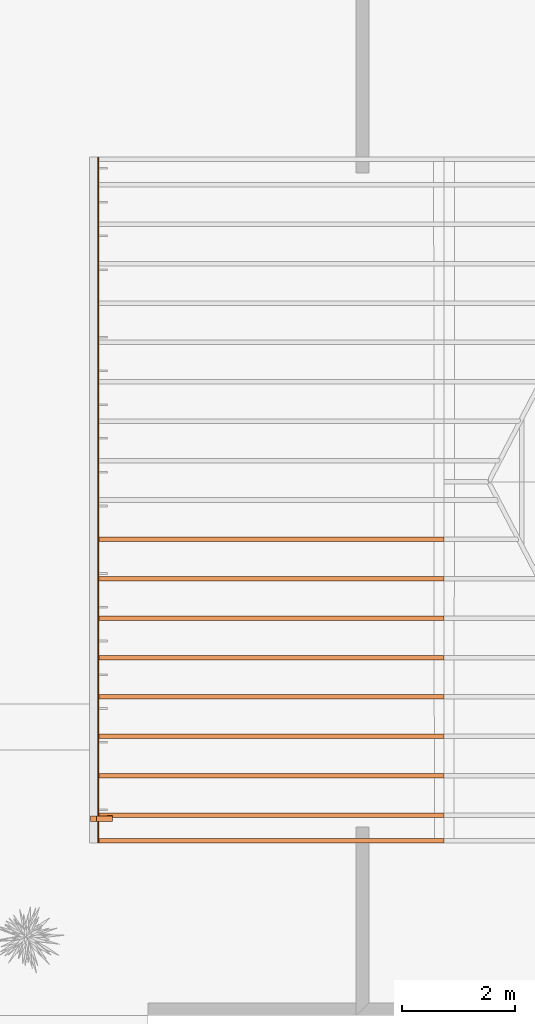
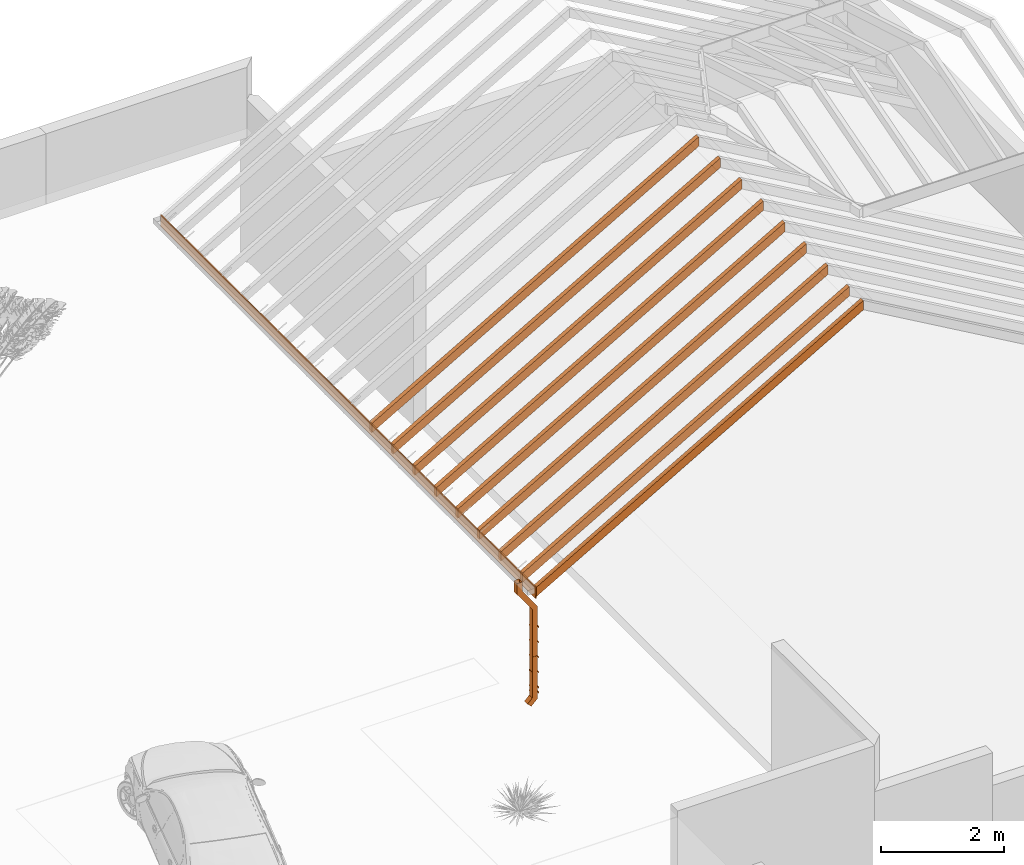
# One storey, part 2 of 7: 21 proxies.
"""IFC2X3 building model written with IfcOpenShell, lengths in metres."""

import ifcopenshell
import ifcopenshell.guid

model = None  # the IFC model being written
_history = None  # IfcOwnerHistory: only IFC2X3 demands one
_inside = {}  # id of a spatial element -> (the spatial element, [elements in it])
_under = {}  # id of a project, library or spatial element -> (it, [spatial elements below it])
_declared = {}  # id of a project -> (the project, [libraries it declares])
_typed = {}  # id of a type object -> (the type object, [elements of that type])
_made_of = {}  # id of a material, layer set ... -> (it, [elements and type objects made of it])


def new_model(schema):
    """Start an empty IFC model of exactly this schema.

    Asked for "IFC4X3", IfcOpenShell would pick the latest addendum, in which some entities
    have other attributes; the version numbers below select the first issue.
    IFC2X3 requires an IfcOwnerHistory on every rooted entity: one is made here for all.
    """
    global model, _history
    if schema == "IFC4X3":
        model = ifcopenshell.file(schema_version=(4, 3, 0, 0))
    else:
        model = ifcopenshell.file(schema=schema)
    _inside.clear()
    _under.clear()
    _declared.clear()
    _typed.clear()
    _made_of.clear()
    _history = None
    if model.schema == "IFC2X3":
        org = make("IfcOrganization", Name="unknown")
        user = make(
            "IfcPersonAndOrganization",
            ThePerson=make("IfcPerson", FamilyName="unknown"),
            TheOrganization=org,
        )
        app = make(
            "IfcApplication",
            ApplicationDeveloper=org,
            Version="unknown",
            ApplicationFullName="unknown",
            ApplicationIdentifier="unknown",
        )
        _history = make(
            "IfcOwnerHistory",
            OwningUser=user,
            OwningApplication=app,
            ChangeAction="ADDED",
            CreationDate=0,
        )
    return model


def make(cls, **values):
    """One entity of the class cls with the attributes given. An attribute that is None is left unset."""
    return model.create_entity(
        cls, **{name: value for name, value in values.items() if value is not None}
    )


def entity(cls, *values):
    """Any entity or typed value of the class cls, its attributes in the order of the schema. None: left unset."""
    e = model.create_entity(cls)
    for i, value in enumerate(values):
        if value is not None:
            e[i] = value
    return e


def rooted(cls, **values):
    """An entity with a GlobalId (a new one), such as an element, a storey or a relation."""
    return make(cls, GlobalId=ifcopenshell.guid.new(), OwnerHistory=_history, **values)


def si_unit(unit_type, name, prefix=None):
    """IfcSIUnit, for example si_unit("LENGTHUNIT", "METRE", prefix="MILLI")."""
    return make("IfcSIUnit", UnitType=unit_type, Prefix=prefix, Name=name)


def converted_unit(unit_type, name, factor, base, dimensions=None, offset=None):
    """IfcConversionBasedUnit, such as the inch: factor (a typed value) times the base unit."""
    return make(
        "IfcConversionBasedUnit"
        if offset is None
        else "IfcConversionBasedUnitWithOffset",
        ConversionOffset=offset,
        Dimensions=None
        if dimensions is None
        else entity("IfcDimensionalExponents", *dimensions),
        UnitType=unit_type,
        Name=name,
        ConversionFactor=make(
            "IfcMeasureWithUnit", ValueComponent=factor, UnitComponent=base
        ),
    )


def derived_unit(unit_type, elements):
    """IfcDerivedUnit: a product of units, each with its exponent."""
    return make(
        "IfcDerivedUnit",
        Elements=[
            make("IfcDerivedUnitElement", Unit=unit, Exponent=power)
            for unit, power in elements
        ],
        UnitType=unit_type,
    )


def money_unit(currency):
    """IfcMonetaryUnit."""
    return make("IfcMonetaryUnit", Currency=currency)


def assignment(units):
    """IfcUnitAssignment: the units of a project."""
    return None if units is None else make("IfcUnitAssignment", Units=units)


def point(xyz):
    """IfcCartesianPoint."""
    return None if xyz is None else make("IfcCartesianPoint", Coordinates=xyz)


def direction(xyz):
    """IfcDirection."""
    return None if xyz is None else make("IfcDirection", DirectionRatios=xyz)


def frame(location, z_axis=None, x_axis=None):
    """IfcAxis2Placement3D, a coordinate frame: its origin and axes. An axis left out is left unset."""
    return make(
        "IfcAxis2Placement3D",
        Location=point(location),
        Axis=direction(z_axis),
        RefDirection=direction(x_axis),
    )


def origin_with_axes():
    """The frame at (0, 0, 0) with the z axis (0, 0, 1) and the x axis (1, 0, 0) written out."""
    return frame((0.0, 0.0, 0.0), z_axis=(0.0, 0.0, 1.0), x_axis=(1.0, 0.0, 0.0))


def place(relative_to, where):
    """IfcLocalPlacement: puts the frame where relative to a parent placement (None: the world)."""
    return make(
        "IfcLocalPlacement", PlacementRelTo=relative_to, RelativePlacement=where
    )


def context(
    kind, dimensions, precision=None, world=None, true_north=None, identifier=None
):
    """IfcGeometricRepresentationContext, for example the 3D "Model" context."""
    return make(
        "IfcGeometricRepresentationContext",
        ContextIdentifier=identifier,
        ContextType=kind,
        CoordinateSpaceDimension=dimensions,
        Precision=precision,
        WorldCoordinateSystem=world,
        TrueNorth=true_north,
    )


def subcontext(parent, identifier, kind, view, scale=None):
    """IfcGeometricRepresentationSubContext, for example "Body" below "Model"."""
    return make(
        "IfcGeometricRepresentationSubContext",
        ContextIdentifier=identifier,
        ContextType=kind,
        ParentContext=parent,
        TargetScale=scale,
        TargetView=view,
    )


def project(units=None, contexts=None):
    """IfcProject with its units and contexts."""
    return rooted(
        "IfcProject",
        Name="project",
        RepresentationContexts=contexts,
        UnitsInContext=assignment(units),
    )


def spatial(cls, under=None, at=None, **own):
    """A site, building, storey or space (cls), placed at a placement, below another one or the project."""
    s = rooted(cls, ObjectPlacement=at, **own)
    if under is not None:
        _under.setdefault(under.id(), (under, []))[1].append(s)
    return s


def faces_of(points, faces, orient=None, outer=None):
    """IfcFace entities. A face is a list of loops; a loop is a list of indices into points, from 0.

    orient and outer hold one flag for each loop. By default every Orientation is true, the
    first loop of a face is its IfcFaceOuterBound and the others are IfcFaceBound.
    """
    made = []
    for i, loops in enumerate(faces):
        bounds = []
        for j, loop in enumerate(loops):
            is_outer = j == 0 if outer is None else outer[i][j]
            bounds.append(
                make(
                    "IfcFaceOuterBound" if is_outer else "IfcFaceBound",
                    Bound=make("IfcPolyLoop", Polygon=[points[k] for k in loop]),
                    Orientation=True if orient is None else orient[i][j],
                )
            )
        made.append(make("IfcFace", Bounds=bounds))
    return made


def open_shell(faces, orient=None, outer=None):
    """The faces of one IfcOpenShell. surface_model builds it on its shared points."""
    return ("IfcOpenShell", faces, orient, outer)


def faceted_brep(points, faces, orient=None, outer=None, voids=None):
    """IfcFacetedBrep: a solid bounded by flat faces; with voids (closed shells), ...WithVoids."""
    shared = [point(p) for p in points]
    hull = make("IfcClosedShell", CfsFaces=faces_of(shared, faces, orient, outer))
    if voids is None:
        return make("IfcFacetedBrep", Outer=hull)
    return make(
        "IfcFacetedBrepWithVoids",
        Outer=hull,
        Voids=[
            make(cls, CfsFaces=faces_of(shared, fs, o, b)) for cls, fs, o, b in voids
        ],
    )


def surface_model(cls, points, shells):
    """IfcFaceBasedSurfaceModel or IfcShellBasedSurfaceModel (cls): surfaces that need not close."""
    shared = [point(p) for p in points]
    made = [make(c, CfsFaces=faces_of(shared, fs, o, b)) for c, fs, o, b in shells]
    if cls == "IfcFaceBasedSurfaceModel":
        return make(cls, FbsmFaces=made)
    return make(cls, SbsmBoundary=made)


def shape(context_of_items, identifier, shape_type, items):
    """IfcShapeRepresentation: the items that make up one representation, for example the "Body"."""
    return make(
        "IfcShapeRepresentation",
        ContextOfItems=context_of_items,
        RepresentationIdentifier=identifier,
        RepresentationType=shape_type,
        Items=items,
    )


def source(mapping_origin, context_of_items, identifier, shape_type, items):
    """IfcRepresentationMap: a shape defined once, which mapped items show again and again."""
    return make(
        "IfcRepresentationMap",
        MappingOrigin=mapping_origin,
        MappedRepresentation=shape(context_of_items, identifier, shape_type, items),
    )


def transform(
    local_origin,
    x_axis=None,
    y_axis=None,
    z_axis=None,
    scale=None,
    scale2=None,
    scale3=None,
    uniform=True,
):
    """IfcCartesianTransformationOperator3D, or its non-uniform kind. x_axis, y_axis, z_axis: its Axis1, 2, 3."""
    if uniform:
        return make(
            "IfcCartesianTransformationOperator3D",
            Axis1=direction(x_axis),
            Axis2=direction(y_axis),
            LocalOrigin=point(local_origin),
            Scale=scale,
            Axis3=direction(z_axis),
        )
    return make(
        "IfcCartesianTransformationOperator3DnonUniform",
        Axis1=direction(x_axis),
        Axis2=direction(y_axis),
        LocalOrigin=point(local_origin),
        Scale=scale,
        Axis3=direction(z_axis),
        Scale2=scale2,
        Scale3=scale3,
    )


def mapped(mapping_source, mapping_target):
    """IfcMappedItem: shows the shape of a source again, moved by a transform."""
    return make(
        "IfcMappedItem", MappingSource=mapping_source, MappingTarget=mapping_target
    )


def made_of(thing, what):
    """Note that an element or type object is made of a material, layer set ...; save() writes the relation."""
    if what is not None:
        _made_of.setdefault(what.id(), (what, []))[1].append(thing)
    return thing


def type_object(cls, material=None, **own):
    """A type object (cls), such as IfcWallType, which elements share."""
    return made_of(rooted(cls, **own), material)


def element(
    cls,
    number,
    at=None,
    inside=None,
    cuts=None,
    type_object=None,
    material=None,
    context=None,
    identifier="Body",
    shape_type=None,
    held_by="IfcProductDefinitionShape",
    body=None,
    shapes=None,
    **own,
):
    """One element of the class cls, such as IfcWall. Its Tag is "e" and its number.

    at: its placement. inside: the storey or other place that contains it. cuts: it is an
    opening in that element (IfcRelVoidsElement). A single representation is given by context,
    identifier, shape_type and body (its items); several are given by shapes. held_by: the class
    of the entity that holds the representations. save() writes the other relations.
    """
    e = rooted(cls, Tag="e%d" % number, ObjectPlacement=at, **own)
    if body is not None:
        shapes = [shape(context, identifier, shape_type, body)]
    if shapes is not None:
        e.Representation = make(held_by, Representations=shapes)
    if inside is not None:
        _inside.setdefault(inside.id(), (inside, []))[1].append(e)
    if cuts is not None:
        rooted(
            "IfcRelVoidsElement", RelatingBuildingElement=cuts, RelatedOpeningElement=e
        )
    if type_object is not None:
        _typed.setdefault(type_object.id(), (type_object, []))[1].append(e)
    return made_of(e, material)


def aggregate(whole, parts):
    """IfcRelAggregates: a whole, such as a stair, and the parts it consists of."""
    return rooted("IfcRelAggregates", RelatingObject=whole, RelatedObjects=parts)


def save(model, path):
    """Write the relations noted so far, then the file.

    IfcRelAggregates (storeys below a building ...), IfcRelContainedInSpatialStructure (elements
    in a storey), IfcRelDefinesByType, IfcRelAssociatesMaterial and IfcRelDeclares: one each for
    every whole, place, type object, material and project.
    """
    for whole, parts in _under.values():
        aggregate(whole, parts)
    for where, things in _inside.values():
        rooted(
            "IfcRelContainedInSpatialStructure",
            RelatedElements=things,
            RelatingStructure=where,
        )
    for kind, things in _typed.values():
        rooted("IfcRelDefinesByType", RelatedObjects=things, RelatingType=kind)
    for what, things in _made_of.values():
        rooted("IfcRelAssociatesMaterial", RelatedObjects=things, RelatingMaterial=what)
    for by, libraries in _declared.values():
        rooted("IfcRelDeclares", RelatingContext=by, RelatedDefinitions=libraries)
    model.write(path)


model = new_model("IFC2X3")

# Units and contexts
model_context = context("Model", 3, precision=1e-05, world=origin_with_axes(), true_north=direction((0.0, 1.0)))
body_context = subcontext(model_context, "Body", "Model", "MODEL_VIEW")
ifc_project = project(units=[si_unit("LENGTHUNIT", "METRE"), si_unit("AREAUNIT", "SQUARE_METRE"), si_unit("VOLUMEUNIT", "CUBIC_METRE"), converted_unit("PLANEANGLEUNIT", "DEGREE", entity("IfcPlaneAngleMeasure", 0.0174532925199), si_unit("PLANEANGLEUNIT", "RADIAN"), dimensions=[0, 0, 0, 0, 0, 0, 0]), si_unit("SOLIDANGLEUNIT", "STERADIAN"), money_unit("CHF"), converted_unit("TIMEUNIT", "Year", entity("IfcTimeMeasure", 31556926.0), si_unit("TIMEUNIT", "SECOND"), dimensions=[0, 0, 1, 0, 0, 0, 0]), si_unit("MASSUNIT", "GRAM", prefix="KILO"), si_unit("THERMODYNAMICTEMPERATUREUNIT", "DEGREE_CELSIUS"), si_unit("LUMINOUSINTENSITYUNIT", "LUMEN"), si_unit("ENERGYUNIT", "JOULE", prefix="MEGA"), derived_unit("THERMALCONDUCTANCEUNIT", [(si_unit("POWERUNIT", "WATT"), 1), (si_unit("LENGTHUNIT", "METRE"), -1), (si_unit("THERMODYNAMICTEMPERATUREUNIT", "KELVIN"), -1)]), derived_unit("SPECIFICHEATCAPACITYUNIT", [(si_unit("ENERGYUNIT", "JOULE"), 1), (si_unit("MASSUNIT", "GRAM", prefix="KILO"), -1), (si_unit("THERMODYNAMICTEMPERATUREUNIT", "KELVIN"), -1)]), derived_unit("MASSDENSITYUNIT", [(si_unit("MASSUNIT", "GRAM", prefix="KILO"), 1), (si_unit("VOLUMEUNIT", "CUBIC_METRE"), -1)])], contexts=[model_context])

# Site, building, storey
site_placement = place(None, origin_with_axes())
site = spatial("IfcSite", under=ifc_project, at=site_placement, Name="Site", CompositionType="ELEMENT")
building_placement = place(site_placement, origin_with_axes())
building = spatial("IfcBuilding", under=site, at=building_placement, Name="Bâtiment", CompositionType="ELEMENT")
storey_placement = place(building_placement, frame((0.0, 0.0, 9.0), z_axis=(0.0, 0.0, 1.0), x_axis=(1.0, 0.0, 0.0)))
storey = spatial("IfcBuildingStorey", under=building, at=storey_placement, Name="TOITURE", CompositionType="ELEMENT", Elevation=9.0)

# Proxies
building_element_proxy_type_1 = type_object("IfcBuildingElementProxyType", Name="Tuyau descente complexe 24", PredefinedType="NOTDEFINED")
shared_shape_1 = source(origin_with_axes(), body_context, "Body", "SurfaceModel", [
    surface_model("IfcShellBasedSurfaceModel", [(-0.05, 0.05, 0.241421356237), (-0.05, 0.05, 0.120710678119), (-0.05, -0.0707106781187, 0.0), (-0.05, -0.141421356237, 0.0707106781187), (-0.05, -0.05, 0.162132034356), (-0.05, -0.05, 0.241421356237), (0.05, 0.05, 0.241421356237), (0.05, 0.05, 0.120710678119), (0.05, -0.0707106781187, 0.0), (0.05, -0.141421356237, 0.0707106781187), (0.05, -0.05, 0.162132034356), (0.05, -0.05, 0.241421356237)], [open_shell([[[0, 1, 2, 3, 4, 5]], [[6, 7, 1, 0]], [[7, 8, 2, 1]], [[4, 3, 9, 10]], [[5, 4, 10, 11]], [[11, 10, 9, 8, 7, 6]]])]),
    surface_model("IfcShellBasedSurfaceModel", [(0.05, -0.05, 1.73114252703), (0.05, -0.05, 0.241421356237), (0.05, 0.05, 0.241421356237), (0.05, 0.05, 1.73114252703), (-0.05, -0.05, 1.73114252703), (-0.05, -0.05, 0.241421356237), (-0.05, 0.05, 0.241421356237), (-0.05, 0.05, 1.73114252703)], [open_shell([[[0, 1, 2, 3]], [[4, 5, 1, 0]], [[3, 2, 6, 7]], [[7, 6, 5, 4]]])]),
    faceted_brep([(0.09, 0.0479, 0.341421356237), (0.09, 0.0479, 0.371421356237), (0.052, 0.0479, 0.371421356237), (0.052, 0.0479, 0.341421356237), (0.09, 0.0499, 0.341421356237), (0.09, 0.0499, 0.371421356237), (0.0502, 0.0499, 0.371421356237), (0.0502, -0.0503, 0.371421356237), (-0.0502, -0.0503, 0.371421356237), (-0.0502, 0.0499, 0.371421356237), (-0.09, 0.0499, 0.371421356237), (-0.09, 0.0479, 0.371421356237), (-0.052, 0.0479, 0.371421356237), (-0.052, -0.0521, 0.371421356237), (0.052, -0.0521, 0.371421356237), (0.052, -0.0521, 0.341421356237), (-0.052, -0.0521, 0.341421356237), (-0.052, 0.0479, 0.341421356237), (-0.09, 0.0479, 0.341421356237), (-0.09, 0.0499, 0.341421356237), (-0.0502, 0.0499, 0.341421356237), (-0.0502, -0.0503, 0.341421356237), (0.0502, -0.0503, 0.341421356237), (0.0502, 0.0499, 0.341421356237)], [[[0, 1, 2, 3]], [[4, 5, 1, 0]], [[1, 5, 6, 7, 8, 9, 10, 11, 12, 13, 14, 2]], [[3, 2, 14, 15]], [[0, 3, 15, 16, 17, 18, 19, 20, 21, 22, 23, 4]], [[23, 6, 5, 4]], [[22, 7, 6, 23]], [[21, 8, 7, 22]], [[20, 9, 8, 21]], [[19, 10, 9, 20]], [[18, 11, 10, 19]], [[17, 12, 11, 18]], [[16, 13, 12, 17]], [[15, 14, 13, 16]]]),
    faceted_brep([(0.09, 0.0479, 0.641421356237), (0.09, 0.0479, 0.671421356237), (0.052, 0.0479, 0.671421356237), (0.052, 0.0479, 0.641421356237), (0.09, 0.0499, 0.641421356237), (0.09, 0.0499, 0.671421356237), (0.0502, 0.0499, 0.671421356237), (0.0502, -0.0503, 0.671421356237), (-0.0502, -0.0503, 0.671421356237), (-0.0502, 0.0499, 0.671421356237), (-0.09, 0.0499, 0.671421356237), (-0.09, 0.0479, 0.671421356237), (-0.052, 0.0479, 0.671421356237), (-0.052, -0.0521, 0.671421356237), (0.052, -0.0521, 0.671421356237), (0.052, -0.0521, 0.641421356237), (-0.052, -0.0521, 0.641421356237), (-0.052, 0.0479, 0.641421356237), (-0.09, 0.0479, 0.641421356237), (-0.09, 0.0499, 0.641421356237), (-0.0502, 0.0499, 0.641421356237), (-0.0502, -0.0503, 0.641421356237), (0.0502, -0.0503, 0.641421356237), (0.0502, 0.0499, 0.641421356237)], [[[0, 1, 2, 3]], [[4, 5, 1, 0]], [[1, 5, 6, 7, 8, 9, 10, 11, 12, 13, 14, 2]], [[3, 2, 14, 15]], [[0, 3, 15, 16, 17, 18, 19, 20, 21, 22, 23, 4]], [[23, 6, 5, 4]], [[22, 7, 6, 23]], [[21, 8, 7, 22]], [[20, 9, 8, 21]], [[19, 10, 9, 20]], [[18, 11, 10, 19]], [[17, 12, 11, 18]], [[16, 13, 12, 17]], [[15, 14, 13, 16]]]),
    faceted_brep([(0.09, 0.0479, 0.941421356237), (0.09, 0.0479, 0.971421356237), (0.052, 0.0479, 0.971421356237), (0.052, 0.0479, 0.941421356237), (0.09, 0.0499, 0.941421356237), (0.09, 0.0499, 0.971421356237), (0.0502, 0.0499, 0.971421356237), (0.0502, -0.0503, 0.971421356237), (-0.0502, -0.0503, 0.971421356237), (-0.0502, 0.0499, 0.971421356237), (-0.09, 0.0499, 0.971421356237), (-0.09, 0.0479, 0.971421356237), (-0.052, 0.0479, 0.971421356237), (-0.052, -0.0521, 0.971421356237), (0.052, -0.0521, 0.971421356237), (0.052, -0.0521, 0.941421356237), (-0.052, -0.0521, 0.941421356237), (-0.052, 0.0479, 0.941421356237), (-0.09, 0.0479, 0.941421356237), (-0.09, 0.0499, 0.941421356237), (-0.0502, 0.0499, 0.941421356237), (-0.0502, -0.0503, 0.941421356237), (0.0502, -0.0503, 0.941421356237), (0.0502, 0.0499, 0.941421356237)], [[[0, 1, 2, 3]], [[4, 5, 1, 0]], [[1, 5, 6, 7, 8, 9, 10, 11, 12, 13, 14, 2]], [[3, 2, 14, 15]], [[0, 3, 15, 16, 17, 18, 19, 20, 21, 22, 23, 4]], [[23, 6, 5, 4]], [[22, 7, 6, 23]], [[21, 8, 7, 22]], [[20, 9, 8, 21]], [[19, 10, 9, 20]], [[18, 11, 10, 19]], [[17, 12, 11, 18]], [[16, 13, 12, 17]], [[15, 14, 13, 16]]]),
    faceted_brep([(0.09, 0.0479, 1.24142135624), (0.09, 0.0479, 1.27142135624), (0.052, 0.0479, 1.27142135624), (0.052, 0.0479, 1.24142135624), (0.09, 0.0499, 1.24142135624), (0.09, 0.0499, 1.27142135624), (0.0502, 0.0499, 1.27142135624), (0.0502, -0.0503, 1.27142135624), (-0.0502, -0.0503, 1.27142135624), (-0.0502, 0.0499, 1.27142135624), (-0.09, 0.0499, 1.27142135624), (-0.09, 0.0479, 1.27142135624), (-0.052, 0.0479, 1.27142135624), (-0.052, -0.0521, 1.27142135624), (0.052, -0.0521, 1.27142135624), (0.052, -0.0521, 1.24142135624), (-0.052, -0.0521, 1.24142135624), (-0.052, 0.0479, 1.24142135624), (-0.09, 0.0479, 1.24142135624), (-0.09, 0.0499, 1.24142135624), (-0.0502, 0.0499, 1.24142135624), (-0.0502, -0.0503, 1.24142135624), (0.0502, -0.0503, 1.24142135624), (0.0502, 0.0499, 1.24142135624)], [[[0, 1, 2, 3]], [[4, 5, 1, 0]], [[1, 5, 6, 7, 8, 9, 10, 11, 12, 13, 14, 2]], [[3, 2, 14, 15]], [[0, 3, 15, 16, 17, 18, 19, 20, 21, 22, 23, 4]], [[23, 6, 5, 4]], [[22, 7, 6, 23]], [[21, 8, 7, 22]], [[20, 9, 8, 21]], [[19, 10, 9, 20]], [[18, 11, 10, 19]], [[17, 12, 11, 18]], [[16, 13, 12, 17]], [[15, 14, 13, 16]]]),
    faceted_brep([(0.09, 0.0479, 1.54142135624), (0.09, 0.0479, 1.57142135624), (0.052, 0.0479, 1.57142135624), (0.052, 0.0479, 1.54142135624), (0.09, 0.0499, 1.54142135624), (0.09, 0.0499, 1.57142135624), (0.0502, 0.0499, 1.57142135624), (0.0502, -0.0503, 1.57142135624), (-0.0502, -0.0503, 1.57142135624), (-0.0502, 0.0499, 1.57142135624), (-0.09, 0.0499, 1.57142135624), (-0.09, 0.0479, 1.57142135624), (-0.052, 0.0479, 1.57142135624), (-0.052, -0.0521, 1.57142135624), (0.052, -0.0521, 1.57142135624), (0.052, -0.0521, 1.54142135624), (-0.052, -0.0521, 1.54142135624), (-0.052, 0.0479, 1.54142135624), (-0.09, 0.0479, 1.54142135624), (-0.09, 0.0499, 1.54142135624), (-0.0502, 0.0499, 1.54142135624), (-0.0502, -0.0503, 1.54142135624), (0.0502, -0.0503, 1.54142135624), (0.0502, 0.0499, 1.54142135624)], [[[0, 1, 2, 3]], [[4, 5, 1, 0]], [[1, 5, 6, 7, 8, 9, 10, 11, 12, 13, 14, 2]], [[3, 2, 14, 15]], [[0, 3, 15, 16, 17, 18, 19, 20, 21, 22, 23, 4]], [[23, 6, 5, 4]], [[22, 7, 6, 23]], [[21, 8, 7, 22]], [[20, 9, 8, 21]], [[19, 10, 9, 20]], [[18, 11, 10, 19]], [[17, 12, 11, 18]], [[16, 13, 12, 17]], [[15, 14, 13, 16]]]),
    faceted_brep([(0.09, 0.0479, 0.241421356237), (0.09, 0.0479, 0.271421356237), (0.052, 0.0479, 0.271421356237), (0.052, 0.0479, 0.241421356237), (0.09, 0.0499, 0.241421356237), (0.09, 0.0499, 0.271421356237), (0.0502, 0.0499, 0.271421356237), (0.0502, -0.0503, 0.271421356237), (-0.0502, -0.0503, 0.271421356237), (-0.0502, 0.0499, 0.271421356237), (-0.09, 0.0499, 0.271421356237), (-0.09, 0.0479, 0.271421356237), (-0.052, 0.0479, 0.271421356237), (-0.052, -0.0521, 0.271421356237), (0.052, -0.0521, 0.271421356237), (0.052, -0.0521, 0.241421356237), (-0.052, -0.0521, 0.241421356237), (-0.052, 0.0479, 0.241421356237), (-0.09, 0.0479, 0.241421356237), (-0.09, 0.0499, 0.241421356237), (-0.0502, 0.0499, 0.241421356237), (-0.0502, -0.0503, 0.241421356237), (0.0502, -0.0503, 0.241421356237), (0.0502, 0.0499, 0.241421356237)], [[[0, 1, 2, 3]], [[4, 5, 1, 0]], [[1, 5, 6, 7, 8, 9, 10, 11, 12, 13, 14, 2]], [[3, 2, 14, 15]], [[0, 3, 15, 16, 17, 18, 19, 20, 21, 22, 23, 4]], [[23, 6, 5, 4]], [[22, 7, 6, 23]], [[21, 8, 7, 22]], [[20, 9, 8, 21]], [[19, 10, 9, 20]], [[18, 11, 10, 19]], [[17, 12, 11, 18]], [[16, 13, 12, 17]], [[15, 14, 13, 16]]]),
    surface_model("IfcShellBasedSurfaceModel", [(-0.05, -0.237876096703, 2.53114252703), (-0.05, -0.237876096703, 2.34726423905), (-0.05, 0.05, 1.94726423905), (-0.05, 0.05, 1.73114252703), (-0.05, -0.05, 1.73114252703), (-0.05, -0.05, 1.915020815), (-0.05, -0.337876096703, 2.315020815), (-0.05, -0.337876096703, 2.53114252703), (0.05, -0.237876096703, 2.53114252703), (0.05, -0.237876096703, 2.34726423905), (0.05, 0.05, 1.94726423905), (0.05, 0.05, 1.73114252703), (0.05, -0.05, 1.73114252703), (0.05, -0.05, 1.915020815), (0.05, -0.337876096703, 2.315020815), (0.05, -0.337876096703, 2.53114252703)], [open_shell([[[0, 1, 2, 3, 4, 5, 6, 7]], [[8, 9, 1, 0]], [[9, 10, 2, 1]], [[10, 11, 3, 2]], [[5, 4, 12, 13]], [[6, 5, 13, 14]], [[7, 6, 14, 15]], [[15, 14, 13, 12, 11, 10, 9, 8]]])]),
])
for number, where, z_axis, x_axis, name in (
    (1, (84.7273951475, 7.3316524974, -8.94848765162), (0.0, 0.0, 1.0), (0.0, -1.0, 0.0), "MOB-1154"),
    (2, (84.7273951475, 7.3316524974, -8.94848765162), (0.0, 0.0, 1.0), (0.0, -1.0, 0.0), "MOB-1154"),
):
    element("IfcBuildingElementProxy", number, at=place(storey_placement, frame(where, z_axis=z_axis, x_axis=x_axis)), inside=storey, type_object=building_element_proxy_type_1, Name=name, context=body_context, shape_type="MappedRepresentation", body=[
        mapped(shared_shape_1, transform((0.0, 0.0, 0.0))),
    ])
building_element_proxy_type_2 = type_object("IfcBuildingElementProxyType", Name="Chevron RM 20", PredefinedType="NOTDEFINED")
shared_shape_2 = source(origin_with_axes(), body_context, "Body", "Brep", [
    faceted_brep([(-0.24869386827, -0.04, 0.041168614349), (5.88999992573, -0.04, 3.58534512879), (5.88999992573, 0.04, 3.58534512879), (-0.24869386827, 0.04, 0.041168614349), (-0.24869386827, -0.04, -0.143583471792), (5.88999992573, -0.04, 3.40059304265), (5.88999992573, 0.04, 3.40059304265), (-0.24869386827, 0.04, -0.143583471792)], [[[0, 1, 2, 3]], [[4, 5, 1, 0]], [[2, 1, 5, 6]], [[3, 2, 6, 7]], [[3, 7, 4, 0]], [[7, 6, 5, 4]]]),
])
for number, where, z_axis, x_axis, name in (
    (3, (84.7835191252, 6.94034105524, -6.34843913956), (0.0, 0.0, 1.0), (1.0, 0.0, 0.0), "MOB-1202"),
    (4, (84.7835191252, 6.94034105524, -6.34843913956), (0.0, 0.0, 1.0), (1.0, 0.0, 0.0), "MOB-1202"),
):
    element("IfcBuildingElementProxy", number, at=place(storey_placement, frame(where, z_axis=z_axis, x_axis=x_axis)), inside=storey, type_object=building_element_proxy_type_2, Name=name, context=body_context, shape_type="MappedRepresentation", body=[
        mapped(shared_shape_2, transform((0.0, 0.0, 0.0))),
    ])
shared_shape_3 = source(origin_with_axes(), body_context, "Body", "Brep", [
    faceted_brep([(-0.247710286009, -0.04, 0.0417364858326), (5.88999992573, -0.04, 3.58534512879), (5.88999992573, 0.04, 3.58534512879), (-0.247710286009, 0.04, 0.0417364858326), (-0.247710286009, -0.04, -0.143015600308), (5.88999992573, -0.04, 3.40059304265), (5.88999992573, 0.04, 3.40059304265), (-0.247710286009, 0.04, -0.143015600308)], [[[0, 1, 2, 3]], [[4, 5, 1, 0]], [[2, 1, 5, 6]], [[3, 2, 6, 7]], [[3, 7, 4, 0]], [[7, 6, 5, 4]]]),
])
for number, where, z_axis, x_axis, name in (
    (5, (84.7835191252, 10.8953410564, -6.34843913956), (0.0, 0.0, 1.0), (1.0, 0.0, 0.0), "MOB-1196"),
    (6, (84.7835191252, 10.8953410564, -6.34843913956), (0.0, 0.0, 1.0), (1.0, 0.0, 0.0), "MOB-1196"),
):
    element("IfcBuildingElementProxy", number, at=place(storey_placement, frame(where, z_axis=z_axis, x_axis=x_axis)), inside=storey, type_object=building_element_proxy_type_2, Name=name, context=body_context, shape_type="MappedRepresentation", body=[
        mapped(shared_shape_3, transform((0.0, 0.0, 0.0))),
    ])
shared_shape_4 = source(origin_with_axes(), body_context, "Body", "Brep", [
    faceted_brep([(-0.250064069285, -0.04, 0.0403775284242), (5.88999992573, -0.04, 3.58534512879), (5.88999992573, 0.04, 3.58534512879), (-0.250064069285, 0.04, 0.0403775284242), (-0.250064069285, -0.04, -0.144374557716), (5.88999992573, -0.04, 3.40059304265), (5.88999992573, 0.04, 3.40059304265), (-0.250064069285, 0.04, -0.144374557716)], [[[0, 1, 2, 3]], [[4, 5, 1, 0]], [[2, 1, 5, 6]], [[3, 2, 6, 7]], [[3, 7, 4, 0]], [[7, 6, 5, 4]]]),
])
for number, where, z_axis, x_axis, name in (
    (7, (84.7835191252, 10.1953410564, -6.34843913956), (0.0, 0.0, 1.0), (1.0, 0.0, 0.0), "MOB-1197"),
    (8, (84.7835191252, 10.1953410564, -6.34843913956), (0.0, 0.0, 1.0), (1.0, 0.0, 0.0), "MOB-1197"),
):
    element("IfcBuildingElementProxy", number, at=place(storey_placement, frame(where, z_axis=z_axis, x_axis=x_axis)), inside=storey, type_object=building_element_proxy_type_2, Name=name, context=body_context, shape_type="MappedRepresentation", body=[
        mapped(shared_shape_4, transform((0.0, 0.0, 0.0))),
    ])
shared_shape_5 = source(origin_with_axes(), body_context, "Body", "Brep", [
    faceted_brep([(-0.249112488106, -0.04, 0.040926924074), (5.88999992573, -0.04, 3.58534512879), (5.88999992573, 0.04, 3.58534512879), (-0.249112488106, 0.04, 0.040926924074), (-0.249112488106, -0.04, -0.143825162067), (5.88999992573, -0.04, 3.40059304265), (5.88999992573, 0.04, 3.40059304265), (-0.249112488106, 0.04, -0.143825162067)], [[[0, 1, 2, 3]], [[4, 5, 1, 0]], [[2, 1, 5, 6]], [[3, 2, 6, 7]], [[3, 7, 4, 0]], [[7, 6, 5, 4]]]),
])
for number, where, z_axis, x_axis, name in (
    (9, (84.7835191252, 8.79534105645, -6.34843913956), (0.0, 0.0, 1.0), (1.0, 0.0, 0.0), "MOB-1199"),
    (10, (84.7835191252, 8.79534105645, -6.34843913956), (0.0, 0.0, 1.0), (1.0, 0.0, 0.0), "MOB-1199"),
):
    element("IfcBuildingElementProxy", number, at=place(storey_placement, frame(where, z_axis=z_axis, x_axis=x_axis)), inside=storey, type_object=building_element_proxy_type_2, Name=name, context=body_context, shape_type="MappedRepresentation", body=[
        mapped(shared_shape_5, transform((0.0, 0.0, 0.0))),
    ])
shared_shape_6 = source(origin_with_axes(), body_context, "Body", "Brep", [
    faceted_brep([(-0.251307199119, -0.04, 0.0396598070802), (5.88999992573, -0.04, 3.58534512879), (5.88999992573, 0.04, 3.58534512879), (-0.251307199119, 0.04, 0.0396598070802), (-0.251307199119, -0.04, -0.145092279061), (5.88999992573, -0.04, 3.40059304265), (5.88999992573, 0.04, 3.40059304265), (-0.251307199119, 0.04, -0.145092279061)], [[[0, 1, 2, 3]], [[4, 5, 1, 0]], [[2, 1, 5, 6]], [[3, 2, 6, 7]], [[3, 7, 4, 0]], [[7, 6, 5, 4]]]),
])
for number, where, z_axis, x_axis, name in (
    (11, (84.7835191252, 11.5953410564, -6.34843913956), (0.0, 0.0, 1.0), (1.0, 0.0, 0.0), "MOB-1195"),
    (12, (84.7835191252, 11.5953410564, -6.34843913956), (0.0, 0.0, 1.0), (1.0, 0.0, 0.0), "MOB-1195"),
):
    element("IfcBuildingElementProxy", number, at=place(storey_placement, frame(where, z_axis=z_axis, x_axis=x_axis)), inside=storey, type_object=building_element_proxy_type_2, Name=name, context=body_context, shape_type="MappedRepresentation", body=[
        mapped(shared_shape_6, transform((0.0, 0.0, 0.0))),
    ])
shared_shape_7 = source(origin_with_axes(), body_context, "Body", "Brep", [
    faceted_brep([(-0.25050037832, -0.04, 0.0401256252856), (5.88999992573, -0.04, 3.58534512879), (5.88999992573, 0.04, 3.58534512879), (-0.25050037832, 0.04, 0.0401256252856), (-0.25050037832, -0.04, -0.144626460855), (5.88999992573, -0.04, 3.40059304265), (5.88999992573, 0.04, 3.40059304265), (-0.25050037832, 0.04, -0.144626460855)], [[[0, 1, 2, 3]], [[4, 5, 1, 0]], [[2, 1, 5, 6]], [[3, 2, 6, 7]], [[3, 7, 4, 0]], [[7, 6, 5, 4]]]),
])
for number, where, z_axis, x_axis, name in (
    (13, (84.7835191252, 9.49534105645, -6.34843913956), (0.0, 0.0, 1.0), (1.0, 0.0, 0.0), "MOB-1198"),
    (14, (84.7835191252, 9.49534105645, -6.34843913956), (0.0, 0.0, 1.0), (1.0, 0.0, 0.0), "MOB-1198"),
):
    element("IfcBuildingElementProxy", number, at=place(storey_placement, frame(where, z_axis=z_axis, x_axis=x_axis)), inside=storey, type_object=building_element_proxy_type_2, Name=name, context=body_context, shape_type="MappedRepresentation", body=[
        mapped(shared_shape_7, transform((0.0, 0.0, 0.0))),
    ])
shared_shape_8 = source(origin_with_axes(), body_context, "Body", "Brep", [
    faceted_brep([(-0.249234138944, -0.04, 0.0408566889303), (5.88999992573, -0.04, 3.58534512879), (5.88999992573, 0.04, 3.58534512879), (-0.249234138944, 0.04, 0.0408566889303), (-0.249234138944, -0.04, -0.14389539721), (5.88999992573, -0.04, 3.40059304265), (5.88999992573, 0.04, 3.40059304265), (-0.249234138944, 0.04, -0.14389539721)], [[[0, 1, 2, 3]], [[4, 5, 1, 0]], [[2, 1, 5, 6]], [[3, 2, 6, 7]], [[3, 7, 4, 0]], [[7, 6, 5, 4]]]),
])
for number, where, z_axis, x_axis, name in (
    (15, (84.7835191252, 8.09534105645, -6.34843913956), (0.0, 0.0, 1.0), (1.0, 0.0, 0.0), "MOB-1200"),
    (16, (84.7835191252, 8.09534105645, -6.34843913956), (0.0, 0.0, 1.0), (1.0, 0.0, 0.0), "MOB-1200"),
):
    element("IfcBuildingElementProxy", number, at=place(storey_placement, frame(where, z_axis=z_axis, x_axis=x_axis)), inside=storey, type_object=building_element_proxy_type_2, Name=name, context=body_context, shape_type="MappedRepresentation", body=[
        mapped(shared_shape_8, transform((0.0, 0.0, 0.0))),
    ])
building_element_proxy_type_3 = type_object("IfcBuildingElementProxyType", Name="Panne 20", PredefinedType="NOTDEFINED")
shared_shape_9 = source(origin_with_axes(), body_context, "Body", "Brep", [
    faceted_brep([(0.0, -0.01, 0.23), (-12.1900000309, -0.01, 0.23), (-12.1900000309, -0.01, 0.0), (0.0, -0.01, 0.0), (0.0, 0.01, 0.23), (-12.1900000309, 0.01, 0.23), (-12.1900000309, 0.01, 0.0), (0.0, 0.01, 0.0)], [[[0, 1, 2, 3]], [[4, 5, 1, 0]], [[1, 5, 6, 2]], [[3, 2, 6, 7]], [[0, 3, 7, 4]], [[7, 6, 5, 4]]]),
])
proxy_placement = place(storey_placement, frame((84.5235190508, 6.90034105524, -6.5253451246), z_axis=(0.0, 0.0, 1.0), x_axis=(0.0, -1.0, 0.0)))
element("IfcBuildingElementProxy", 17, at=proxy_placement, inside=storey, type_object=building_element_proxy_type_3, Name="MOB-1154", context=body_context, shape_type="MappedRepresentation", body=[
    mapped(shared_shape_9, transform((0.0, 0.0, 0.0))),
])
shared_shape_10 = source(origin_with_axes(), body_context, "Body", "Brep", [
    faceted_brep([(-0.24869386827, -0.04, 0.041168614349), (5.88999992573, -0.04, 3.58534512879), (5.88999992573, 0.04, 3.58534512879), (-0.24869386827, 0.04, 0.041168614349), (-0.24869386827, -0.04, -0.143583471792), (5.88999992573, -0.04, 3.40059304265), (5.88999992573, 0.04, 3.40059304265), (-0.24869386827, 0.04, -0.143583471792)], [[[0, 1, 2, 3]], [[4, 5, 1, 0]], [[2, 1, 5, 6]], [[3, 2, 6, 7]], [[3, 7, 4, 0]], [[7, 6, 5, 4]]]),
])
for number, where, z_axis, x_axis, name in (
    (18, (84.7835191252, 7.39534105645, -6.34843913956), (0.0, 0.0, 1.0), (1.0, 0.0, 0.0), "MOB-1201"),
    (19, (84.7835191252, 7.39534105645, -6.34843913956), (0.0, 0.0, 1.0), (1.0, 0.0, 0.0), "MOB-1201"),
):
    element("IfcBuildingElementProxy", number, at=place(storey_placement, frame(where, z_axis=z_axis, x_axis=x_axis)), inside=storey, type_object=building_element_proxy_type_2, Name=name, context=body_context, shape_type="MappedRepresentation", body=[
        mapped(shared_shape_10, transform((0.0, 0.0, 0.0))),
    ])
shared_shape_11 = source(origin_with_axes(), body_context, "Body", "Brep", [
    faceted_brep([(-0.24913326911, -0.04, 0.0409149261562), (5.88999992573, -0.04, 3.58534512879), (5.88999992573, 0.04, 3.58534512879), (-0.24913326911, 0.04, 0.0409149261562), (-0.24913326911, -0.04, -0.143837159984), (5.88999992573, -0.04, 3.40059304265), (5.88999992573, 0.04, 3.40059304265), (-0.24913326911, 0.04, -0.143837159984)], [[[0, 1, 2, 3]], [[4, 5, 1, 0]], [[2, 1, 5, 6]], [[3, 2, 6, 7]], [[3, 7, 4, 0]], [[7, 6, 5, 4]]]),
])
for number, where, z_axis, x_axis, name in (
    (20, (84.7835191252, 12.2953410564, -6.34843913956), (0.0, 0.0, 1.0), (1.0, 0.0, 0.0), "MOB-1194"),
    (21, (84.7835191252, 12.2953410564, -6.34843913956), (0.0, 0.0, 1.0), (1.0, 0.0, 0.0), "MOB-1194"),
):
    element("IfcBuildingElementProxy", number, at=place(storey_placement, frame(where, z_axis=z_axis, x_axis=x_axis)), inside=storey, type_object=building_element_proxy_type_2, Name=name, context=body_context, shape_type="MappedRepresentation", body=[
        mapped(shared_shape_11, transform((0.0, 0.0, 0.0))),
    ])

save(model, "model.ifc")
